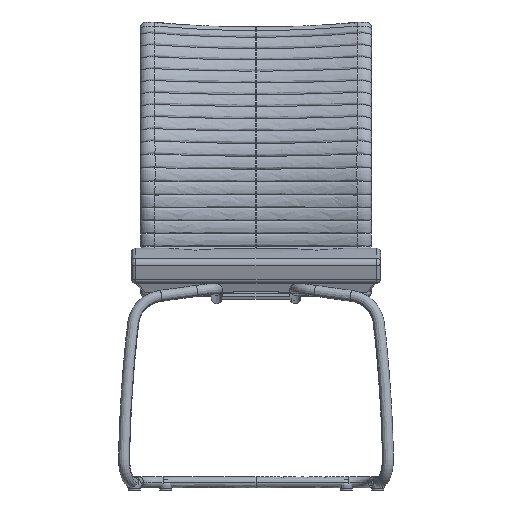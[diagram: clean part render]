
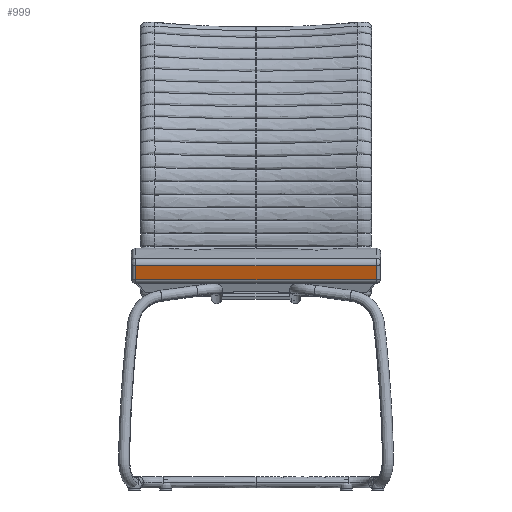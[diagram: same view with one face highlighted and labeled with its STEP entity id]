
A CAD part, front view. The second image highlights one B-rep face of the part: STEP entity #999.
In plain terms, the highlighted free-form (B-spline) face has degree [3, 1] with [5, 2] control points.
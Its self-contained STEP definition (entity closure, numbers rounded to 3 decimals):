
#729=B_SPLINE_SURFACE_WITH_KNOTS('',3,1,((#24077,#24078),(#24079,#24080),
(#24081,#24082),(#24083,#24084),(#24085,#24086)),.UNSPECIFIED.,.F.,.F.,
 .F.,(4,1,4),(2,2),(-496.969,-248.485,0.),(0.,1.),
 .UNSPECIFIED.);
#999=ADVANCED_FACE('',(#1299),#729,.T.);
#1299=FACE_OUTER_BOUND('',#1599,.T.);
#1599=EDGE_LOOP('',(#2676,#2677,#2678,#2679));
#2676=ORIENTED_EDGE('',*,*,#3394,.T.);
#2677=ORIENTED_EDGE('',*,*,#3428,.T.);
#2678=ORIENTED_EDGE('',*,*,#3393,.F.);
#2679=ORIENTED_EDGE('',*,*,#3430,.F.);
#3393=EDGE_CURVE('',#3966,#3967,#3553,.T.);
#3394=EDGE_CURVE('',#3968,#3969,#3554,.T.);
#3428=EDGE_CURVE('',#3969,#3967,#3584,.T.);
#3430=EDGE_CURVE('',#3968,#3966,#3586,.T.);
#3553=(
BOUNDED_CURVE()
B_SPLINE_CURVE(1,(#24965,#24966),.UNSPECIFIED.,.F.,.F.)
B_SPLINE_CURVE_WITH_KNOTS((2,2),(7.977,487.023),
 .UNSPECIFIED.)
CURVE()
GEOMETRIC_REPRESENTATION_ITEM()
RATIONAL_B_SPLINE_CURVE((1.,1.))
REPRESENTATION_ITEM('')
);
#3554=(
BOUNDED_CURVE()
B_SPLINE_CURVE(3,(#24967,#24968,#24969,#24970),.UNSPECIFIED.,.F.,.F.)
B_SPLINE_CURVE_WITH_KNOTS((4,4),(7.914,487.086),
 .UNSPECIFIED.)
CURVE()
GEOMETRIC_REPRESENTATION_ITEM()
RATIONAL_B_SPLINE_CURVE((1.,1.,1.,1.))
REPRESENTATION_ITEM('')
);
#3584=(
BOUNDED_CURVE()
B_SPLINE_CURVE(3,(#25648,#25649,#25650,#25651),.UNSPECIFIED.,.F.,.F.)
B_SPLINE_CURVE_WITH_KNOTS((4,4),(0.,30.159),
 .UNSPECIFIED.)
CURVE()
GEOMETRIC_REPRESENTATION_ITEM()
RATIONAL_B_SPLINE_CURVE((1.,1.,1.,1.))
REPRESENTATION_ITEM('')
);
#3586=(
BOUNDED_CURVE()
B_SPLINE_CURVE(3,(#25656,#25657,#25658,#25659),.UNSPECIFIED.,.F.,.F.)
B_SPLINE_CURVE_WITH_KNOTS((4,4),(0.,30.159),
 .UNSPECIFIED.)
CURVE()
GEOMETRIC_REPRESENTATION_ITEM()
RATIONAL_B_SPLINE_CURVE((1.,1.,1.,1.))
REPRESENTATION_ITEM('')
);
#3966=VERTEX_POINT('',#24931);
#3967=VERTEX_POINT('',#24932);
#3968=VERTEX_POINT('',#24933);
#3969=VERTEX_POINT('',#24934);
#24077=CARTESIAN_POINT('',(247.5,-312.969,457.802));
#24078=CARTESIAN_POINT('',(247.5,-297.856,410.365));
#24079=CARTESIAN_POINT('',(165.,-312.969,457.802));
#24080=CARTESIAN_POINT('',(165.,-297.856,410.365));
#24081=CARTESIAN_POINT('',(0.,-312.969,457.802));
#24082=CARTESIAN_POINT('',(0.,-297.856,410.365));
#24083=CARTESIAN_POINT('',(-165.,-312.969,457.802));
#24084=CARTESIAN_POINT('',(-165.,-297.856,410.365));
#24085=CARTESIAN_POINT('',(-247.5,-312.969,457.802));
#24086=CARTESIAN_POINT('',(-247.5,-297.856,410.365));
#24931=CARTESIAN_POINT('',(239.523,-300.348,418.187));
#24932=CARTESIAN_POINT('',(-239.523,-300.348,418.187));
#24933=CARTESIAN_POINT('',(239.586,-309.504,446.924));
#24934=CARTESIAN_POINT('',(-239.586,-309.504,446.924));
#24965=CARTESIAN_POINT('',(239.523,-300.348,418.187));
#24966=CARTESIAN_POINT('',(-239.523,-300.348,418.187));
#24967=CARTESIAN_POINT('',(239.586,-309.504,446.924));
#24968=CARTESIAN_POINT('',(79.862,-309.505,446.926));
#24969=CARTESIAN_POINT('',(-79.862,-309.505,446.926));
#24970=CARTESIAN_POINT('',(-239.586,-309.504,446.924));
#25648=CARTESIAN_POINT('',(-239.586,-309.504,446.924));
#25649=CARTESIAN_POINT('',(-239.567,-306.452,437.345));
#25650=CARTESIAN_POINT('',(-239.546,-303.4,427.766));
#25651=CARTESIAN_POINT('',(-239.523,-300.348,418.187));
#25656=CARTESIAN_POINT('',(239.586,-309.504,446.924));
#25657=CARTESIAN_POINT('',(239.567,-306.452,437.345));
#25658=CARTESIAN_POINT('',(239.546,-303.4,427.766));
#25659=CARTESIAN_POINT('',(239.523,-300.348,418.187));
